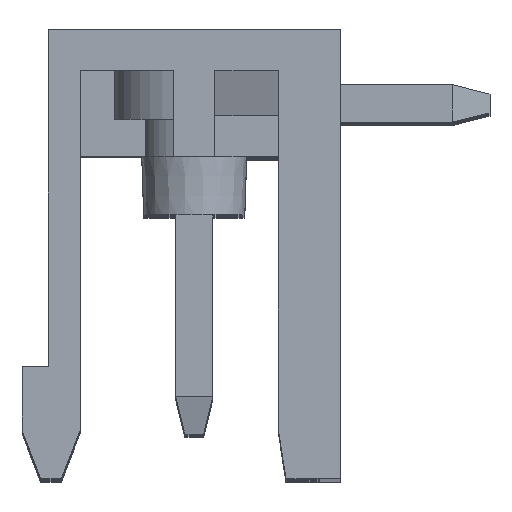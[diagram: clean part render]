
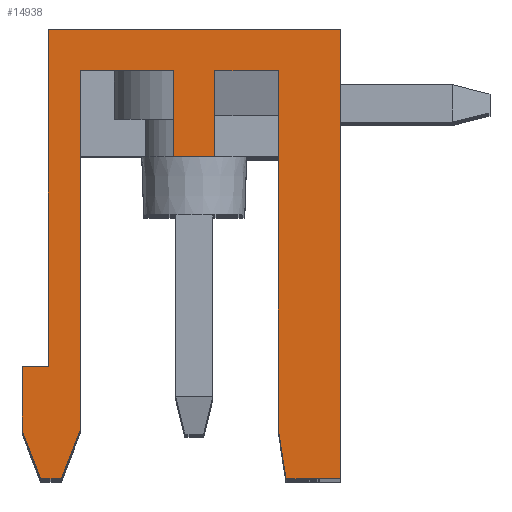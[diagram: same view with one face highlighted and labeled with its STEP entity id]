
A CAD part, top view. The second image highlights one B-rep face of the part: STEP entity #14938.
In plain terms, the highlighted planar face has unit normal (0, 0, 1).
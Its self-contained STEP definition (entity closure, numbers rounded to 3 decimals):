
#18 = ORIENTED_EDGE ( 'NONE', *, *, #965, .T. ) ;
#269 = EDGE_CURVE ( 'NONE', #26646, #12150, #2950, .T. ) ;
#849 = LINE ( 'NONE', #22266, #15707 ) ;
#965 = EDGE_CURVE ( 'NONE', #7738, #12742, #7660, .T. ) ;
#1003 = LINE ( 'NONE', #9562, #25276 ) ;
#1229 = VECTOR ( 'NONE', #15149, 1000. ) ;
#1466 = CARTESIAN_POINT ( 'NONE',  ( 2.25, 1.3, 55.88 ) ) ;
#1759 = CARTESIAN_POINT ( 'NONE',  ( -0.55, 10.9, 55.88 ) ) ;
#2299 = CARTESIAN_POINT ( 'NONE',  ( -4.1, 0., 55.88 ) ) ;
#2300 = ORIENTED_EDGE ( 'NONE', *, *, #23275, .T. ) ;
#2886 = EDGE_CURVE ( 'NONE', #18064, #10922, #13224, .T. ) ;
#2950 = LINE ( 'NONE', #17541, #4585 ) ;
#3144 = VERTEX_POINT ( 'NONE', #27210 ) ;
#3230 = VERTEX_POINT ( 'NONE', #25804 ) ;
#3266 = VECTOR ( 'NONE', #12757, 1000. ) ;
#3315 = CARTESIAN_POINT ( 'NONE',  ( -3.9, 12., 55.88 ) ) ;
#3348 = ORIENTED_EDGE ( 'NONE', *, *, #4279, .T. ) ;
#3363 = EDGE_LOOP ( 'NONE', ( #3348, #2300, #22802, #24406, #9000, #13828, #25061, #17000, #18292, #6307, #25495, #16014, #3717, #4076, #17980, #9308, #18 ) ) ;
#3460 = CARTESIAN_POINT ( 'NONE',  ( -10.2, 16.267, 55.88 ) ) ;
#3717 = ORIENTED_EDGE ( 'NONE', *, *, #17657, .T. ) ;
#4076 = ORIENTED_EDGE ( 'NONE', *, *, #13815, .T. ) ;
#4279 = EDGE_CURVE ( 'NONE', #12742, #26380, #24552, .T. ) ;
#4585 = VECTOR ( 'NONE', #15300, 1000. ) ;
#4609 = VECTOR ( 'NONE', #26855, 1000. ) ;
#4665 = LINE ( 'NONE', #13209, #5464 ) ;
#5408 = CARTESIAN_POINT ( 'NONE',  ( 2.45, 0., 55.88 ) ) ;
#5464 = VECTOR ( 'NONE', #13073, 1000. ) ;
#5563 = CARTESIAN_POINT ( 'NONE',  ( 2.45, 0., 55.88 ) ) ;
#5665 = DIRECTION ( 'NONE',  ( 0.152, -0.988, 0. ) ) ;
#5969 = PLANE ( 'NONE',  #16586 ) ;
#6115 = CARTESIAN_POINT ( 'NONE',  ( -4.1, 0., 55.88 ) ) ;
#6227 = CARTESIAN_POINT ( 'NONE',  ( 3.9, 12., 55.88 ) ) ;
#6228 = EDGE_CURVE ( 'NONE', #14181, #10922, #27017, .T. ) ;
#6307 = ORIENTED_EDGE ( 'NONE', *, *, #269, .F. ) ;
#7140 = EDGE_CURVE ( 'NONE', #9673, #3230, #15418, .T. ) ;
#7298 = CARTESIAN_POINT ( 'NONE',  ( 0.55, 8.6, 55.88 ) ) ;
#7506 = CARTESIAN_POINT ( 'NONE',  ( -3.05, 10.9, 55.88 ) ) ;
#7660 = LINE ( 'NONE', #5563, #4609 ) ;
#7738 = VERTEX_POINT ( 'NONE', #5408 ) ;
#7832 = VERTEX_POINT ( 'NONE', #23186 ) ;
#8072 = FACE_OUTER_BOUND ( 'NONE', #3363, .T. ) ;
#8207 = DIRECTION ( 'NONE',  ( 0., -1., 0. ) ) ;
#8788 = VECTOR ( 'NONE', #24909, 1000. ) ;
#8979 = CARTESIAN_POINT ( 'NONE',  ( 0.55, 8.6, 55.88 ) ) ;
#9000 = ORIENTED_EDGE ( 'NONE', *, *, #12675, .T. ) ;
#9033 = EDGE_CURVE ( 'NONE', #25433, #12095, #12907, .T. ) ;
#9308 = ORIENTED_EDGE ( 'NONE', *, *, #15320, .T. ) ;
#9562 = CARTESIAN_POINT ( 'NONE',  ( -3.9, 3., 55.88 ) ) ;
#9673 = VERTEX_POINT ( 'NONE', #3315 ) ;
#9932 = EDGE_CURVE ( 'NONE', #26646, #12095, #20954, .T. ) ;
#10153 = VECTOR ( 'NONE', #19005, 1000. ) ;
#10245 = CARTESIAN_POINT ( 'NONE',  ( 0.55, 8.6, 55.88 ) ) ;
#10801 = DIRECTION ( 'NONE',  ( 0., -1., 0. ) ) ;
#10922 = VERTEX_POINT ( 'NONE', #12137 ) ;
#11012 = CARTESIAN_POINT ( 'NONE',  ( 0.55, 10.9, 55.88 ) ) ;
#11128 = DIRECTION ( 'NONE',  ( 1., 0., 0. ) ) ;
#11380 = CARTESIAN_POINT ( 'NONE',  ( 2.25, 1.3, 55.88 ) ) ;
#11774 = DIRECTION ( 'NONE',  ( 0., -1., 0. ) ) ;
#12095 = VERTEX_POINT ( 'NONE', #14685 ) ;
#12137 = CARTESIAN_POINT ( 'NONE',  ( -3.55, 0., 55.88 ) ) ;
#12150 = VERTEX_POINT ( 'NONE', #12575 ) ;
#12437 = CARTESIAN_POINT ( 'NONE',  ( -3.05, 1.3, 55.88 ) ) ;
#12575 = CARTESIAN_POINT ( 'NONE',  ( -3.05, 10.9, 55.88 ) ) ;
#12640 = CARTESIAN_POINT ( 'NONE',  ( 3.9, 12., 55.88 ) ) ;
#12675 = EDGE_CURVE ( 'NONE', #20762, #3144, #4665, .T. ) ;
#12678 = DIRECTION ( 'NONE',  ( -1., 0., 0. ) ) ;
#12690 = LINE ( 'NONE', #11012, #27286 ) ;
#12742 = VERTEX_POINT ( 'NONE', #25824 ) ;
#12757 = DIRECTION ( 'NONE',  ( 0., 1., 0. ) ) ;
#12814 = DIRECTION ( 'NONE',  ( 0., -1., 0. ) ) ;
#12907 = LINE ( 'NONE', #10245, #1229 ) ;
#13073 = DIRECTION ( 'NONE',  ( 0., -1., 0. ) ) ;
#13128 = VECTOR ( 'NONE', #11128, 1000. ) ;
#13209 = CARTESIAN_POINT ( 'NONE',  ( -4.6, 3., 55.88 ) ) ;
#13224 = LINE ( 'NONE', #2299, #13128 ) ;
#13244 = CARTESIAN_POINT ( 'NONE',  ( -4.6, 3., 55.88 ) ) ;
#13579 = CARTESIAN_POINT ( 'NONE',  ( -3.9, 12., 55.88 ) ) ;
#13740 = CARTESIAN_POINT ( 'NONE',  ( -0.55, 10.9, 55.88 ) ) ;
#13815 = EDGE_CURVE ( 'NONE', #7832, #17101, #12690, .T. ) ;
#13828 = ORIENTED_EDGE ( 'NONE', *, *, #24398, .F. ) ;
#14110 = DIRECTION ( 'NONE',  ( 1., 0., 0. ) ) ;
#14181 = VERTEX_POINT ( 'NONE', #23679 ) ;
#14348 = LINE ( 'NONE', #1466, #24218 ) ;
#14522 = DIRECTION ( 'NONE',  ( 0., 0., 1. ) ) ;
#14685 = CARTESIAN_POINT ( 'NONE',  ( -0.55, 8.6, 55.88 ) ) ;
#14938 = ADVANCED_FACE ( 'NONE', ( #8072 ), #5969, .T. ) ;
#15149 = DIRECTION ( 'NONE',  ( -1., 0., 0. ) ) ;
#15300 = DIRECTION ( 'NONE',  ( -1., 0., 0. ) ) ;
#15320 = EDGE_CURVE ( 'NONE', #20161, #7738, #14348, .T. ) ;
#15418 = LINE ( 'NONE', #13579, #15547 ) ;
#15547 = VECTOR ( 'NONE', #10801, 1000. ) ;
#15707 = VECTOR ( 'NONE', #11774, 1000. ) ;
#15739 = DIRECTION ( 'NONE',  ( 0., 1., 0. ) ) ;
#16014 = ORIENTED_EDGE ( 'NONE', *, *, #9033, .F. ) ;
#16586 = AXIS2_PLACEMENT_3D ( 'NONE', #3460, #14522, #14110 ) ;
#17000 = ORIENTED_EDGE ( 'NONE', *, *, #6228, .F. ) ;
#17101 = VERTEX_POINT ( 'NONE', #19090 ) ;
#17337 = VECTOR ( 'NONE', #12678, 1000. ) ;
#17541 = CARTESIAN_POINT ( 'NONE',  ( -0.55, 10.9, 55.88 ) ) ;
#17657 = EDGE_CURVE ( 'NONE', #25433, #7832, #26058, .T. ) ;
#17980 = ORIENTED_EDGE ( 'NONE', *, *, #27120, .T. ) ;
#18064 = VERTEX_POINT ( 'NONE', #21114 ) ;
#18095 = DIRECTION ( 'NONE',  ( -1., 0., 0. ) ) ;
#18257 = CARTESIAN_POINT ( 'NONE',  ( 3.9, 0., 55.88 ) ) ;
#18292 = ORIENTED_EDGE ( 'NONE', *, *, #25912, .F. ) ;
#19005 = DIRECTION ( 'NONE',  ( -0.359, 0.933, 0. ) ) ;
#19090 = CARTESIAN_POINT ( 'NONE',  ( 2.25, 10.9, 55.88 ) ) ;
#19149 = LINE ( 'NONE', #6115, #10153 ) ;
#20161 = VERTEX_POINT ( 'NONE', #11380 ) ;
#20762 = VERTEX_POINT ( 'NONE', #13244 ) ;
#20770 = VECTOR ( 'NONE', #15739, 1000. ) ;
#20801 = LINE ( 'NONE', #7506, #21491 ) ;
#20954 = LINE ( 'NONE', #1759, #21390 ) ;
#21114 = CARTESIAN_POINT ( 'NONE',  ( -4.1, 0., 55.88 ) ) ;
#21376 = EDGE_CURVE ( 'NONE', #3230, #20762, #1003, .T. ) ;
#21390 = VECTOR ( 'NONE', #8207, 1000. ) ;
#21491 = VECTOR ( 'NONE', #12814, 1000. ) ;
#22266 = CARTESIAN_POINT ( 'NONE',  ( 2.25, 10.9, 55.88 ) ) ;
#22802 = ORIENTED_EDGE ( 'NONE', *, *, #7140, .T. ) ;
#23186 = CARTESIAN_POINT ( 'NONE',  ( 0.55, 10.9, 55.88 ) ) ;
#23275 = EDGE_CURVE ( 'NONE', #26380, #9673, #25010, .T. ) ;
#23679 = CARTESIAN_POINT ( 'NONE',  ( -3.05, 1.3, 55.88 ) ) ;
#24218 = VECTOR ( 'NONE', #5665, 1000. ) ;
#24398 = EDGE_CURVE ( 'NONE', #18064, #3144, #19149, .T. ) ;
#24406 = ORIENTED_EDGE ( 'NONE', *, *, #21376, .T. ) ;
#24552 = LINE ( 'NONE', #18257, #20770 ) ;
#24909 = DIRECTION ( 'NONE',  ( -0.359, -0.933, 0. ) ) ;
#25010 = LINE ( 'NONE', #6227, #17337 ) ;
#25061 = ORIENTED_EDGE ( 'NONE', *, *, #2886, .T. ) ;
#25276 = VECTOR ( 'NONE', #18095, 1000. ) ;
#25433 = VERTEX_POINT ( 'NONE', #7298 ) ;
#25495 = ORIENTED_EDGE ( 'NONE', *, *, #9932, .T. ) ;
#25804 = CARTESIAN_POINT ( 'NONE',  ( -3.9, 3., 55.88 ) ) ;
#25824 = CARTESIAN_POINT ( 'NONE',  ( 3.9, 0., 55.88 ) ) ;
#25912 = EDGE_CURVE ( 'NONE', #12150, #14181, #20801, .T. ) ;
#26058 = LINE ( 'NONE', #8979, #3266 ) ;
#26380 = VERTEX_POINT ( 'NONE', #12640 ) ;
#26646 = VERTEX_POINT ( 'NONE', #13740 ) ;
#26855 = DIRECTION ( 'NONE',  ( 1., 0., 0. ) ) ;
#27017 = LINE ( 'NONE', #12437, #8788 ) ;
#27120 = EDGE_CURVE ( 'NONE', #17101, #20161, #849, .T. ) ;
#27210 = CARTESIAN_POINT ( 'NONE',  ( -4.6, 1.3, 55.88 ) ) ;
#27286 = VECTOR ( 'NONE', #27538, 1000. ) ;
#27538 = DIRECTION ( 'NONE',  ( 1., 0., 0. ) ) ;
